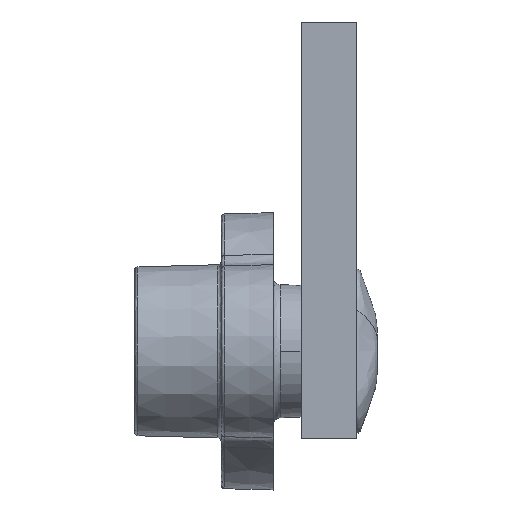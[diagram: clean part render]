
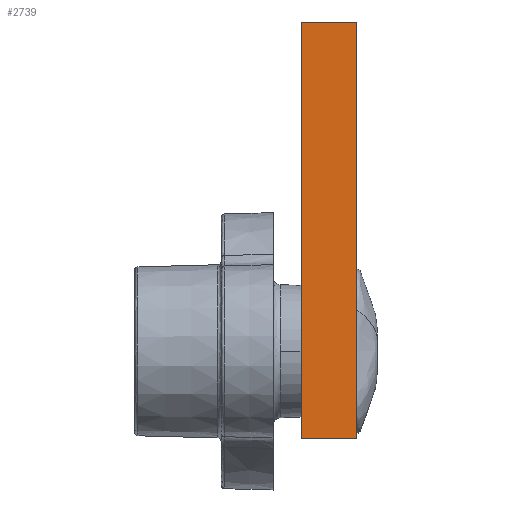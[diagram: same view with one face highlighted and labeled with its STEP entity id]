
A CAD part, left-side view. The second image highlights one B-rep face of the part: STEP entity #2739.
In plain terms, the highlighted planar face has unit normal (-1, 0, 0).
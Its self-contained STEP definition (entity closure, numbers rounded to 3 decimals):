
#104 = DIRECTION ( 'NONE',  ( 0., 0., -1. ) ) ;
#657 = CARTESIAN_POINT ( 'NONE',  ( -6.5, 1.6, 6. ) ) ;
#770 = EDGE_CURVE ( 'NONE', #2215, #11614, #2678, .T. ) ;
#1787 = VECTOR ( 'NONE', #3797, 1000. ) ;
#2215 = VERTEX_POINT ( 'NONE', #15090 ) ;
#2498 = VECTOR ( 'NONE', #9192, 1000. ) ;
#2599 = EDGE_LOOP ( 'NONE', ( #3182, #7835, #12781, #6629 ) ) ;
#2678 = LINE ( 'NONE', #4042, #8131 ) ;
#2739 = ADVANCED_FACE ( 'NONE', ( #12470 ), #11101, .F. ) ;
#3182 = ORIENTED_EDGE ( 'NONE', *, *, #3795, .F. ) ;
#3795 = EDGE_CURVE ( 'NONE', #12394, #2215, #12329, .T. ) ;
#3797 = DIRECTION ( 'NONE',  ( 0., -1., 0. ) ) ;
#3937 = CARTESIAN_POINT ( 'NONE',  ( -6.5, 1.6, -6. ) ) ;
#3951 = DIRECTION ( 'NONE',  ( 0., 0., -1. ) ) ;
#4042 = CARTESIAN_POINT ( 'NONE',  ( -6.5, 0., 0. ) ) ;
#4800 = VERTEX_POINT ( 'NONE', #5373 ) ;
#5257 = LINE ( 'NONE', #10312, #2498 ) ;
#5373 = CARTESIAN_POINT ( 'NONE',  ( -6.5, 1.6, -6. ) ) ;
#6629 = ORIENTED_EDGE ( 'NONE', *, *, #770, .F. ) ;
#6821 = AXIS2_PLACEMENT_3D ( 'NONE', #11031, #11189, #104 ) ;
#7835 = ORIENTED_EDGE ( 'NONE', *, *, #12446, .F. ) ;
#8057 = VECTOR ( 'NONE', #10186, 1000. ) ;
#8131 = VECTOR ( 'NONE', #3951, 1000. ) ;
#8808 = LINE ( 'NONE', #3937, #1787 ) ;
#8904 = CARTESIAN_POINT ( 'NONE',  ( -6.5, 1.6, 6. ) ) ;
#9192 = DIRECTION ( 'NONE',  ( 0., 0., 1. ) ) ;
#10045 = CARTESIAN_POINT ( 'NONE',  ( -6.5, 0., -6. ) ) ;
#10186 = DIRECTION ( 'NONE',  ( 0., -1., 0. ) ) ;
#10312 = CARTESIAN_POINT ( 'NONE',  ( -6.5, 1.6, 6. ) ) ;
#11031 = CARTESIAN_POINT ( 'NONE',  ( -6.5, 1.6, 6. ) ) ;
#11101 = PLANE ( 'NONE',  #6821 ) ;
#11189 = DIRECTION ( 'NONE',  ( 1., 0., 0. ) ) ;
#11614 = VERTEX_POINT ( 'NONE', #10045 ) ;
#12329 = LINE ( 'NONE', #8904, #8057 ) ;
#12394 = VERTEX_POINT ( 'NONE', #657 ) ;
#12446 = EDGE_CURVE ( 'NONE', #4800, #12394, #5257, .T. ) ;
#12470 = FACE_OUTER_BOUND ( 'NONE', #2599, .T. ) ;
#12781 = ORIENTED_EDGE ( 'NONE', *, *, #15757, .T. ) ;
#15090 = CARTESIAN_POINT ( 'NONE',  ( -6.5, 0., 6. ) ) ;
#15757 = EDGE_CURVE ( 'NONE', #4800, #11614, #8808, .T. ) ;
